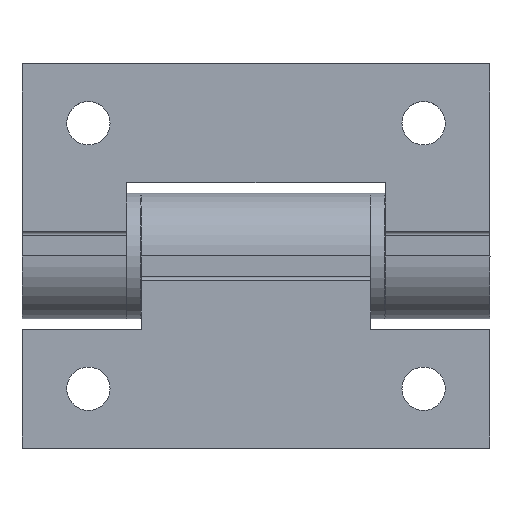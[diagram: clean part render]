
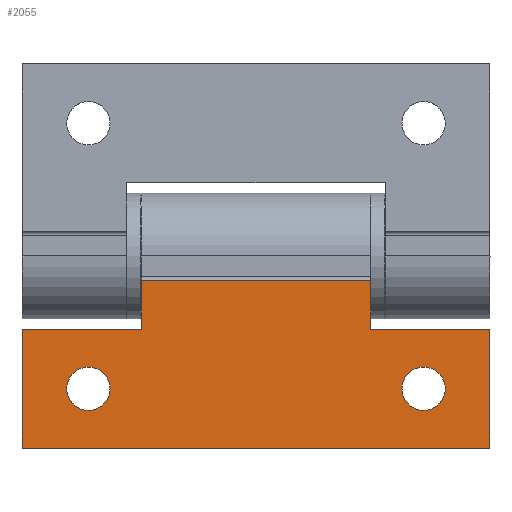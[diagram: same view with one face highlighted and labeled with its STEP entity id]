
A CAD part, top view. The second image highlights one B-rep face of the part: STEP entity #2055.
In plain terms, the highlighted planar face has unit normal (0, 0, 1) as drawn and (-1, 0, 0) by its records, which use the part's own axes.
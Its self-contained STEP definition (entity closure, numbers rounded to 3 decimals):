
#167=CIRCLE('',#2249,3.1);
#168=CIRCLE('',#2250,3.1);
#340=ORIENTED_EDGE('',*,*,#931,.T.);
#341=ORIENTED_EDGE('',*,*,#932,.T.);
#342=ORIENTED_EDGE('',*,*,#933,.T.);
#343=ORIENTED_EDGE('',*,*,#934,.T.);
#344=ORIENTED_EDGE('',*,*,#935,.T.);
#345=ORIENTED_EDGE('',*,*,#936,.T.);
#346=ORIENTED_EDGE('',*,*,#921,.T.);
#347=ORIENTED_EDGE('',*,*,#930,.F.);
#348=ORIENTED_EDGE('',*,*,#937,.T.);
#349=ORIENTED_EDGE('',*,*,#938,.T.);
#921=EDGE_CURVE('',#1214,#1219,#1413,.T.);
#930=EDGE_CURVE('',#1225,#1219,#1419,.T.);
#931=EDGE_CURVE('',#1226,#1226,#167,.T.);
#932=EDGE_CURVE('',#1227,#1227,#168,.T.);
#933=EDGE_CURVE('',#1228,#1229,#1420,.T.);
#934=EDGE_CURVE('',#1229,#1230,#1421,.T.);
#935=EDGE_CURVE('',#1230,#1231,#1422,.T.);
#936=EDGE_CURVE('',#1231,#1214,#1423,.T.);
#937=EDGE_CURVE('',#1225,#1232,#1424,.T.);
#938=EDGE_CURVE('',#1232,#1228,#1425,.T.);
#1214=VERTEX_POINT('',#3163);
#1219=VERTEX_POINT('',#3172);
#1225=VERTEX_POINT('',#3190);
#1226=VERTEX_POINT('',#3194);
#1227=VERTEX_POINT('',#3196);
#1228=VERTEX_POINT('',#3198);
#1229=VERTEX_POINT('',#3199);
#1230=VERTEX_POINT('',#3201);
#1231=VERTEX_POINT('',#3203);
#1232=VERTEX_POINT('',#3206);
#1413=LINE('',#3173,#1543);
#1419=LINE('',#3191,#1549);
#1420=LINE('',#3197,#1550);
#1421=LINE('',#3200,#1551);
#1422=LINE('',#3202,#1552);
#1423=LINE('',#3204,#1553);
#1424=LINE('',#3205,#1554);
#1425=LINE('',#3207,#1555);
#1543=VECTOR('',#2513,1000.);
#1549=VECTOR('',#2531,1000.);
#1550=VECTOR('',#2538,1000.);
#1551=VECTOR('',#2539,1000.);
#1552=VECTOR('',#2540,1000.);
#1553=VECTOR('',#2541,1000.);
#1554=VECTOR('',#2542,1000.);
#1555=VECTOR('',#2543,1000.);
#1676=EDGE_LOOP('',(#340));
#1677=EDGE_LOOP('',(#341));
#1678=EDGE_LOOP('',(#342,#343,#344,#345,#346,#347,#348,#349));
#1848=FACE_BOUND('',#1676,.T.);
#1849=FACE_BOUND('',#1677,.T.);
#1850=FACE_BOUND('',#1678,.T.);
#2017=PLANE('',#2248);
#2055=ADVANCED_FACE('',(#1848,#1849,#1850),#2017,.T.);
#2248=AXIS2_PLACEMENT_3D('',#3192,#2532,#2533);
#2249=AXIS2_PLACEMENT_3D('',#3193,#2534,#2535);
#2250=AXIS2_PLACEMENT_3D('',#3195,#2536,#2537);
#2513=DIRECTION('',(0.,-1.,0.));
#2531=DIRECTION('',(0.,0.,-1.));
#2532=DIRECTION('',(-1.,0.,0.));
#2533=DIRECTION('',(0.,0.,-1.));
#2534=DIRECTION('',(1.,0.,0.));
#2535=DIRECTION('',(0.,-1.,0.));
#2536=DIRECTION('',(1.,0.,0.));
#2537=DIRECTION('',(0.,-1.,0.));
#2538=DIRECTION('',(0.,1.,0.));
#2539=DIRECTION('',(0.,0.,-1.));
#2540=DIRECTION('',(0.,-1.,0.));
#2541=DIRECTION('',(0.,0.,-1.));
#2542=DIRECTION('',(0.,1.,0.));
#2543=DIRECTION('',(0.,0.,-1.));
#3163=CARTESIAN_POINT('',(-9.5,-10.5,-67.));
#3172=CARTESIAN_POINT('',(-9.5,-27.5,-67.));
#3173=CARTESIAN_POINT('',(-9.5,-10.5,-67.));
#3190=CARTESIAN_POINT('',(-9.5,-27.5,0.));
#3191=CARTESIAN_POINT('',(-9.5,-27.5,0.));
#3192=CARTESIAN_POINT('',(-9.5,-3.5,0.));
#3193=CARTESIAN_POINT('',(-9.5,-19.,-9.5));
#3194=CARTESIAN_POINT('',(-9.5,-22.1,-9.5));
#3195=CARTESIAN_POINT('',(-9.5,-19.,-57.5));
#3196=CARTESIAN_POINT('',(-9.5,-22.1,-57.5));
#3197=CARTESIAN_POINT('',(-9.5,-10.5,-17.1));
#3198=CARTESIAN_POINT('',(-9.5,-10.5,-17.1));
#3199=CARTESIAN_POINT('',(-9.5,-3.5,-17.1));
#3200=CARTESIAN_POINT('',(-9.5,-3.5,-17.1));
#3201=CARTESIAN_POINT('',(-9.5,-3.5,-49.9));
#3202=CARTESIAN_POINT('',(-9.5,-3.5,-49.9));
#3203=CARTESIAN_POINT('',(-9.5,-10.5,-49.9));
#3204=CARTESIAN_POINT('',(-9.5,-10.5,-49.9));
#3205=CARTESIAN_POINT('',(-9.5,-27.5,0.));
#3206=CARTESIAN_POINT('',(-9.5,-10.5,0.));
#3207=CARTESIAN_POINT('',(-9.5,-10.5,0.));
